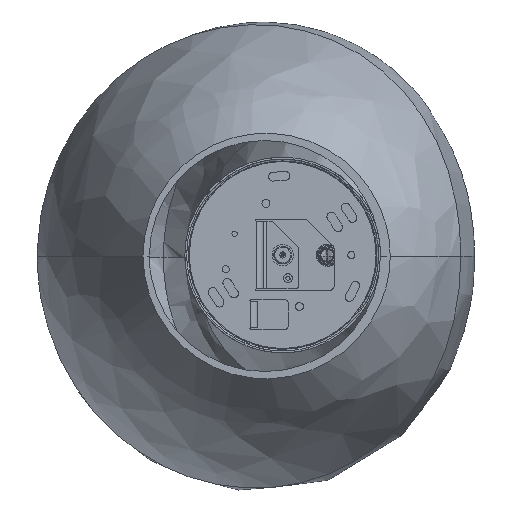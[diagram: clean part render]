
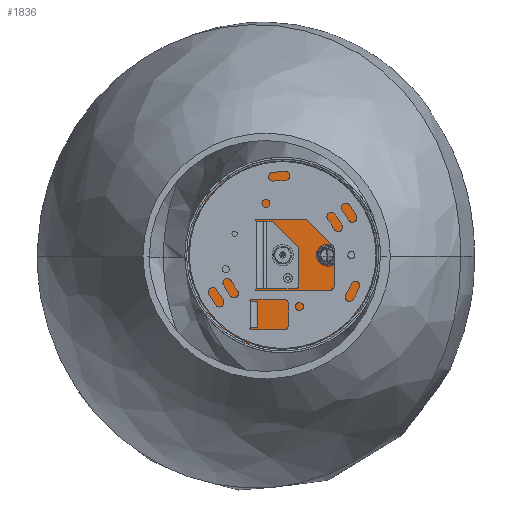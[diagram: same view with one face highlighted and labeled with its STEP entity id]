
A CAD part, top view. The second image highlights one B-rep face of the part: STEP entity #1836.
In plain terms, the highlighted planar face has unit normal (0, 0, 1).
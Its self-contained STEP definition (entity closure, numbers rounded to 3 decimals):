
#602=FACE_BOUND('',#2865,.T.);
#603=FACE_BOUND('',#2866,.T.);
#604=FACE_BOUND('',#2867,.T.);
#605=FACE_BOUND('',#2868,.T.);
#1836=ADVANCED_FACE('',(#2315,#602,#603,#604,#605),#8474,.T.);
#2315=FACE_OUTER_BOUND('',#2864,.T.);
#2864=EDGE_LOOP('',(#4980,#4981));
#2865=EDGE_LOOP('',(#4982,#4983));
#2866=EDGE_LOOP('',(#4984,#4985));
#2867=EDGE_LOOP('',(#4986,#4987));
#2868=EDGE_LOOP('',(#4988,#4989));
#4980=ORIENTED_EDGE('',*,*,#6566,.T.);
#4981=ORIENTED_EDGE('',*,*,#6563,.T.);
#4982=ORIENTED_EDGE('',*,*,#6546,.T.);
#4983=ORIENTED_EDGE('',*,*,#6578,.T.);
#4984=ORIENTED_EDGE('',*,*,#6559,.T.);
#4985=ORIENTED_EDGE('',*,*,#6591,.T.);
#4986=ORIENTED_EDGE('',*,*,#6555,.T.);
#4987=ORIENTED_EDGE('',*,*,#6587,.T.);
#4988=ORIENTED_EDGE('',*,*,#6584,.F.);
#4989=ORIENTED_EDGE('',*,*,#6552,.F.);
#6546=EDGE_CURVE('',#8097,#8120,#7242,.T.);
#6552=EDGE_CURVE('',#8101,#8123,#7246,.T.);
#6555=EDGE_CURVE('',#8105,#8125,#7248,.T.);
#6559=EDGE_CURVE('',#8104,#8128,#7251,.T.);
#6563=EDGE_CURVE('',#8109,#8103,#7254,.T.);
#6566=EDGE_CURVE('',#8103,#8109,#7257,.T.);
#6578=EDGE_CURVE('',#8120,#8097,#7266,.T.);
#6584=EDGE_CURVE('',#8123,#8101,#7270,.T.);
#6587=EDGE_CURVE('',#8125,#8105,#7272,.T.);
#6591=EDGE_CURVE('',#8128,#8104,#7275,.T.);
#7242=(
BOUNDED_CURVE()
B_SPLINE_CURVE(2,(#27089,#27090,#27091,#27092,#27093),.UNSPECIFIED.,.F.,
 .F.)
B_SPLINE_CURVE_WITH_KNOTS((3,2,3),(-31.416,-23.562,
-15.708),.UNSPECIFIED.)
CURVE()
GEOMETRIC_REPRESENTATION_ITEM()
RATIONAL_B_SPLINE_CURVE((1.,0.707,1.,0.707,1.))
REPRESENTATION_ITEM('')
);
#7246=(
BOUNDED_CURVE()
B_SPLINE_CURVE(2,(#27113,#27114,#27115,#27116,#27117),.UNSPECIFIED.,.F.,
 .F.)
B_SPLINE_CURVE_WITH_KNOTS((3,2,3),(0.,3.927,7.854),
 .UNSPECIFIED.)
CURVE()
GEOMETRIC_REPRESENTATION_ITEM()
RATIONAL_B_SPLINE_CURVE((1.,0.707,1.,0.707,1.))
REPRESENTATION_ITEM('')
);
#7248=(
BOUNDED_CURVE()
B_SPLINE_CURVE(2,(#27125,#27126,#27127,#27128,#27129),.UNSPECIFIED.,.F.,
 .F.)
B_SPLINE_CURVE_WITH_KNOTS((3,2,3),(-12.566,-9.425,
-6.283),.UNSPECIFIED.)
CURVE()
GEOMETRIC_REPRESENTATION_ITEM()
RATIONAL_B_SPLINE_CURVE((1.,0.707,1.,0.707,1.))
REPRESENTATION_ITEM('')
);
#7251=(
BOUNDED_CURVE()
B_SPLINE_CURVE(2,(#27142,#27143,#27144,#27145,#27146),.UNSPECIFIED.,.F.,
 .F.)
B_SPLINE_CURVE_WITH_KNOTS((3,2,3),(-25.133,-18.85,
-12.566),.UNSPECIFIED.)
CURVE()
GEOMETRIC_REPRESENTATION_ITEM()
RATIONAL_B_SPLINE_CURVE((1.,0.707,1.,0.707,1.))
REPRESENTATION_ITEM('')
);
#7254=(
BOUNDED_CURVE()
B_SPLINE_CURVE(2,(#27155,#27156,#27157,#27158,#27159),.UNSPECIFIED.,.F.,
 .F.)
B_SPLINE_CURVE_WITH_KNOTS((3,2,3),(-333.009,-249.757,
-166.504),.UNSPECIFIED.)
CURVE()
GEOMETRIC_REPRESENTATION_ITEM()
RATIONAL_B_SPLINE_CURVE((1.,0.707,1.,0.707,1.))
REPRESENTATION_ITEM('')
);
#7257=(
BOUNDED_CURVE()
B_SPLINE_CURVE(2,(#27166,#27167,#27168,#27169,#27170),.UNSPECIFIED.,.F.,
 .F.)
B_SPLINE_CURVE_WITH_KNOTS((3,2,3),(-166.504,-83.252,
0.),.UNSPECIFIED.)
CURVE()
GEOMETRIC_REPRESENTATION_ITEM()
RATIONAL_B_SPLINE_CURVE((1.,0.707,1.,0.707,1.))
REPRESENTATION_ITEM('')
);
#7266=(
BOUNDED_CURVE()
B_SPLINE_CURVE(2,(#27209,#27210,#27211,#27212,#27213),.UNSPECIFIED.,.F.,
 .F.)
B_SPLINE_CURVE_WITH_KNOTS((3,2,3),(-15.708,-7.854,0.),
 .UNSPECIFIED.)
CURVE()
GEOMETRIC_REPRESENTATION_ITEM()
RATIONAL_B_SPLINE_CURVE((1.,0.707,1.,0.707,1.))
REPRESENTATION_ITEM('')
);
#7270=(
BOUNDED_CURVE()
B_SPLINE_CURVE(2,(#27233,#27234,#27235,#27236,#27237),.UNSPECIFIED.,.F.,
 .F.)
B_SPLINE_CURVE_WITH_KNOTS((3,2,3),(7.854,11.781,15.708),
 .UNSPECIFIED.)
CURVE()
GEOMETRIC_REPRESENTATION_ITEM()
RATIONAL_B_SPLINE_CURVE((1.,0.707,1.,0.707,1.))
REPRESENTATION_ITEM('')
);
#7272=(
BOUNDED_CURVE()
B_SPLINE_CURVE(2,(#27245,#27246,#27247,#27248,#27249),.UNSPECIFIED.,.F.,
 .F.)
B_SPLINE_CURVE_WITH_KNOTS((3,2,3),(-6.283,-3.142,
0.),.UNSPECIFIED.)
CURVE()
GEOMETRIC_REPRESENTATION_ITEM()
RATIONAL_B_SPLINE_CURVE((1.,0.707,1.,0.707,1.))
REPRESENTATION_ITEM('')
);
#7275=(
BOUNDED_CURVE()
B_SPLINE_CURVE(2,(#27262,#27263,#27264,#27265,#27266),.UNSPECIFIED.,.F.,
 .F.)
B_SPLINE_CURVE_WITH_KNOTS((3,2,3),(-12.566,-6.283,
0.),.UNSPECIFIED.)
CURVE()
GEOMETRIC_REPRESENTATION_ITEM()
RATIONAL_B_SPLINE_CURVE((1.,0.707,1.,0.707,1.))
REPRESENTATION_ITEM('')
);
#8097=VERTEX_POINT('',#27053);
#8101=VERTEX_POINT('',#27057);
#8103=VERTEX_POINT('',#27059);
#8104=VERTEX_POINT('',#27060);
#8105=VERTEX_POINT('',#27061);
#8109=VERTEX_POINT('',#27065);
#8120=VERTEX_POINT('',#27076);
#8123=VERTEX_POINT('',#27079);
#8125=VERTEX_POINT('',#27081);
#8128=VERTEX_POINT('',#27084);
#8474=PLANE('',#9031);
#9031=AXIS2_PLACEMENT_3D('',#26859,#9416,$);
#9416=DIRECTION('',(0.,0.,1.));
#26859=CARTESIAN_POINT('',(-63.72,63.72,-27.));
#27053=CARTESIAN_POINT('',(20.,0.,-27.));
#27057=CARTESIAN_POINT('',(-2.5,35.,-27.));
#27059=CARTESIAN_POINT('',(0.,-53.,-27.));
#27060=CARTESIAN_POINT('',(-4.,0.,-27.));
#27061=CARTESIAN_POINT('',(1.,-13.,-27.));
#27065=CARTESIAN_POINT('',(0.,53.,-27.));
#27076=CARTESIAN_POINT('',(30.,0.,-27.));
#27079=CARTESIAN_POINT('',(2.5,35.,-27.));
#27081=CARTESIAN_POINT('',(5.,-13.,-27.));
#27084=CARTESIAN_POINT('',(4.,0.,-27.));
#27089=CARTESIAN_POINT('',(20.,0.,-27.));
#27090=CARTESIAN_POINT('',(20.,5.,-27.));
#27091=CARTESIAN_POINT('',(25.,5.,-27.));
#27092=CARTESIAN_POINT('',(30.,5.,-27.));
#27093=CARTESIAN_POINT('',(30.,0.,-27.));
#27113=CARTESIAN_POINT('',(-2.5,35.,-27.));
#27114=CARTESIAN_POINT('',(-2.5,32.5,-27.));
#27115=CARTESIAN_POINT('',(0.,32.5,-27.));
#27116=CARTESIAN_POINT('',(2.5,32.5,-27.));
#27117=CARTESIAN_POINT('',(2.5,35.,-27.));
#27125=CARTESIAN_POINT('',(1.,-13.,-27.));
#27126=CARTESIAN_POINT('',(1.,-11.,-27.));
#27127=CARTESIAN_POINT('',(3.,-11.,-27.));
#27128=CARTESIAN_POINT('',(5.,-11.,-27.));
#27129=CARTESIAN_POINT('',(5.,-13.,-27.));
#27142=CARTESIAN_POINT('',(-4.,0.,-27.));
#27143=CARTESIAN_POINT('',(-4.,4.,-27.));
#27144=CARTESIAN_POINT('',(0.,4.,-27.));
#27145=CARTESIAN_POINT('',(4.,4.,-27.));
#27146=CARTESIAN_POINT('',(4.,0.,-27.));
#27155=CARTESIAN_POINT('',(0.,53.,-27.));
#27156=CARTESIAN_POINT('',(-53.,53.,-27.));
#27157=CARTESIAN_POINT('',(-53.,0.,-27.));
#27158=CARTESIAN_POINT('',(-53.,-53.,-27.));
#27159=CARTESIAN_POINT('',(0.,-53.,-27.));
#27166=CARTESIAN_POINT('',(0.,-53.,-27.));
#27167=CARTESIAN_POINT('',(53.,-53.,-27.));
#27168=CARTESIAN_POINT('',(53.,0.,-27.));
#27169=CARTESIAN_POINT('',(53.,53.,-27.));
#27170=CARTESIAN_POINT('',(0.,53.,-27.));
#27209=CARTESIAN_POINT('',(30.,0.,-27.));
#27210=CARTESIAN_POINT('',(30.,-5.,-27.));
#27211=CARTESIAN_POINT('',(25.,-5.,-27.));
#27212=CARTESIAN_POINT('',(20.,-5.,-27.));
#27213=CARTESIAN_POINT('',(20.,0.,-27.));
#27233=CARTESIAN_POINT('',(2.5,35.,-27.));
#27234=CARTESIAN_POINT('',(2.5,37.5,-27.));
#27235=CARTESIAN_POINT('',(0.,37.5,-27.));
#27236=CARTESIAN_POINT('',(-2.5,37.5,-27.));
#27237=CARTESIAN_POINT('',(-2.5,35.,-27.));
#27245=CARTESIAN_POINT('',(5.,-13.,-27.));
#27246=CARTESIAN_POINT('',(5.,-15.,-27.));
#27247=CARTESIAN_POINT('',(3.,-15.,-27.));
#27248=CARTESIAN_POINT('',(1.,-15.,-27.));
#27249=CARTESIAN_POINT('',(1.,-13.,-27.));
#27262=CARTESIAN_POINT('',(4.,0.,-27.));
#27263=CARTESIAN_POINT('',(4.,-4.,-27.));
#27264=CARTESIAN_POINT('',(0.,-4.,-27.));
#27265=CARTESIAN_POINT('',(-4.,-4.,-27.));
#27266=CARTESIAN_POINT('',(-4.,0.,-27.));
